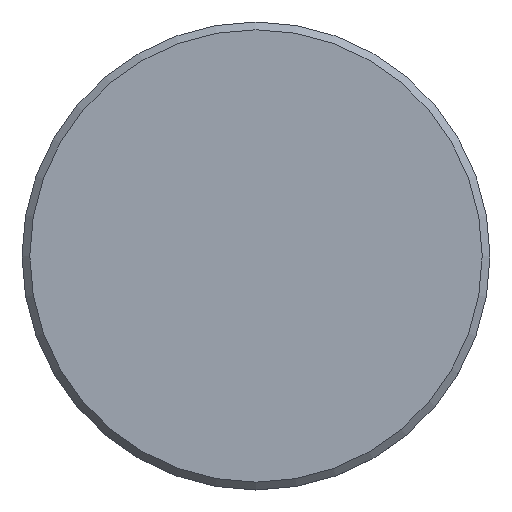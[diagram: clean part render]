
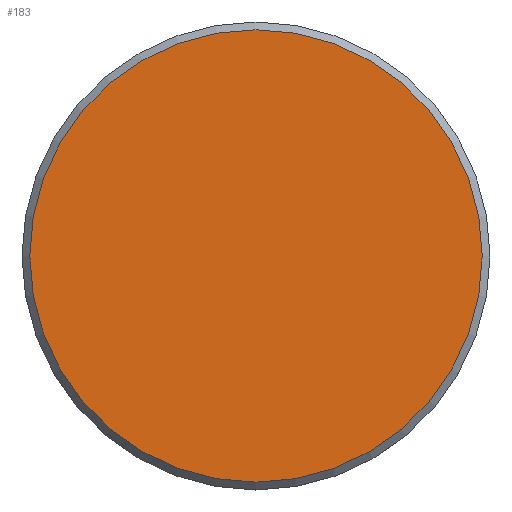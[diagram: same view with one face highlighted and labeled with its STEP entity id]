
A CAD part, top view. The second image highlights one B-rep face of the part: STEP entity #183.
In plain terms, the highlighted planar face has unit normal (0, 0, 1).
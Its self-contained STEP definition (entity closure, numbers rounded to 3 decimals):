
#2 = PLANE ( 'NONE',  #172 ) ;
#23 = DIRECTION ( 'NONE',  ( 0., 0., -1. ) ) ;
#24 = AXIS2_PLACEMENT_3D ( 'NONE', #107, #113, #54 ) ;
#52 = FACE_OUTER_BOUND ( 'NONE', #200, .T. ) ;
#54 = DIRECTION ( 'NONE',  ( 1., 0., 0. ) ) ;
#97 = DIRECTION ( 'NONE',  ( -1., 0., 0. ) ) ;
#107 = CARTESIAN_POINT ( 'NONE',  ( 0., 0., 0. ) ) ;
#113 = DIRECTION ( 'NONE',  ( 0., 0., 1. ) ) ;
#117 = CARTESIAN_POINT ( 'NONE',  ( 14.5, 0., 0. ) ) ;
#129 = VERTEX_POINT ( 'NONE', #117 ) ;
#145 = CIRCLE ( 'NONE', #24, 14.5 ) ;
#161 = CARTESIAN_POINT ( 'NONE',  ( 0., 0., 0. ) ) ;
#166 = EDGE_CURVE ( 'NONE', #129, #129, #145, .T. ) ;
#167 = ORIENTED_EDGE ( 'NONE', *, *, #166, .T. ) ;
#172 = AXIS2_PLACEMENT_3D ( 'NONE', #161, #23, #97 ) ;
#183 = ADVANCED_FACE ( 'NONE', ( #52 ), #2, .F. ) ;
#200 = EDGE_LOOP ( 'NONE', ( #167 ) ) ;
